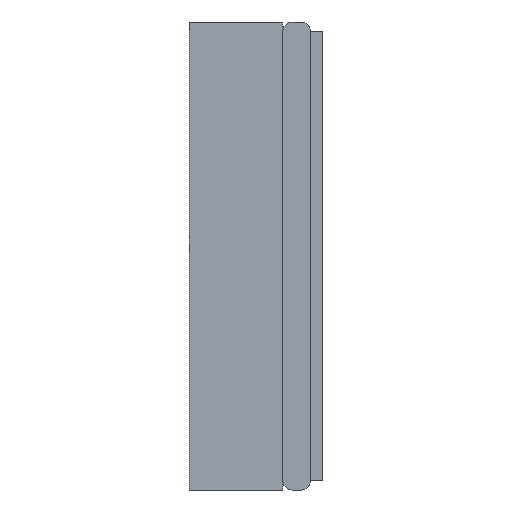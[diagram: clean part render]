
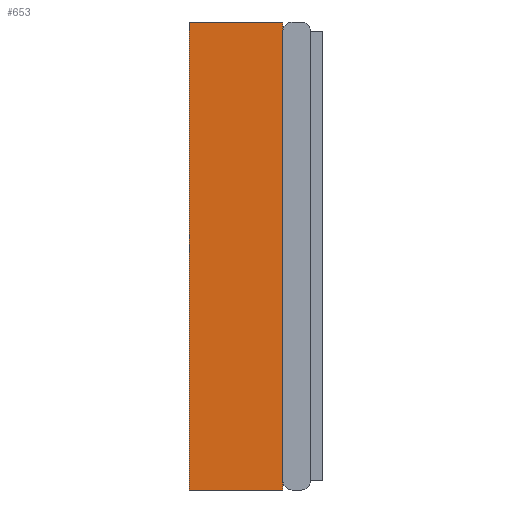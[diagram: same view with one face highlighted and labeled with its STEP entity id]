
A CAD part, left-side view. The second image highlights one B-rep face of the part: STEP entity #653.
In plain terms, the highlighted planar face has unit normal (-1, 0, 0) as drawn and (0, 0, -1) by its records, which use the part's own axes.
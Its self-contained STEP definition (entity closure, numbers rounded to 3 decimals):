
#26 = DIRECTION ( 'NONE',  ( -1., 0., 0. ) ) ;
#74 = VECTOR ( 'NONE', #213, 1000. ) ;
#87 = EDGE_LOOP ( 'NONE', ( #1043, #2081, #1053, #201 ) ) ;
#108 = EDGE_CURVE ( 'NONE', #1558, #340, #694, .T. ) ;
#137 = LINE ( 'NONE', #2329, #322 ) ;
#141 = EDGE_CURVE ( 'NONE', #340, #503, #137, .T. ) ;
#156 = CARTESIAN_POINT ( 'NONE',  ( 0., 1.3, -1000. ) ) ;
#163 = DIRECTION ( 'NONE',  ( 0., 1., 0. ) ) ;
#201 = ORIENTED_EDGE ( 'NONE', *, *, #1234, .F. ) ;
#213 = DIRECTION ( 'NONE',  ( 1., 0., 0. ) ) ;
#322 = VECTOR ( 'NONE', #2423, 1000. ) ;
#336 = CARTESIAN_POINT ( 'NONE',  ( 0., 0.3, -1000. ) ) ;
#340 = VERTEX_POINT ( 'NONE', #484 ) ;
#414 = LINE ( 'NONE', #2116, #74 ) ;
#415 = FACE_OUTER_BOUND ( 'NONE', #87, .T. ) ;
#484 = CARTESIAN_POINT ( 'NONE',  ( 5., 1.3, -1000. ) ) ;
#503 = VERTEX_POINT ( 'NONE', #156 ) ;
#515 = AXIS2_PLACEMENT_3D ( 'NONE', #2292, #804, #26 ) ;
#653 = ADVANCED_FACE ( 'NONE', ( #415 ), #1551, .T. ) ;
#694 = LINE ( 'NONE', #937, #1718 ) ;
#804 = DIRECTION ( 'NONE',  ( 0., 0., -1. ) ) ;
#905 = DIRECTION ( 'NONE',  ( 0., -1., 0. ) ) ;
#937 = CARTESIAN_POINT ( 'NONE',  ( 5., 0.3, -1000. ) ) ;
#960 = LINE ( 'NONE', #1716, #1494 ) ;
#1043 = ORIENTED_EDGE ( 'NONE', *, *, #1785, .F. ) ;
#1053 = ORIENTED_EDGE ( 'NONE', *, *, #108, .F. ) ;
#1234 = EDGE_CURVE ( 'NONE', #1917, #1558, #414, .T. ) ;
#1494 = VECTOR ( 'NONE', #905, 1000. ) ;
#1551 = PLANE ( 'NONE',  #515 ) ;
#1558 = VERTEX_POINT ( 'NONE', #2100 ) ;
#1716 = CARTESIAN_POINT ( 'NONE',  ( 0., 0.3, -1000. ) ) ;
#1718 = VECTOR ( 'NONE', #163, 1000. ) ;
#1785 = EDGE_CURVE ( 'NONE', #503, #1917, #960, .T. ) ;
#1917 = VERTEX_POINT ( 'NONE', #336 ) ;
#2081 = ORIENTED_EDGE ( 'NONE', *, *, #141, .F. ) ;
#2100 = CARTESIAN_POINT ( 'NONE',  ( 5., 0.3, -1000. ) ) ;
#2116 = CARTESIAN_POINT ( 'NONE',  ( 0., 0.3, -1000. ) ) ;
#2292 = CARTESIAN_POINT ( 'NONE',  ( 0., 0., -1000. ) ) ;
#2329 = CARTESIAN_POINT ( 'NONE',  ( 0., 1.3, -1000. ) ) ;
#2423 = DIRECTION ( 'NONE',  ( -1., 0., 0. ) ) ;
